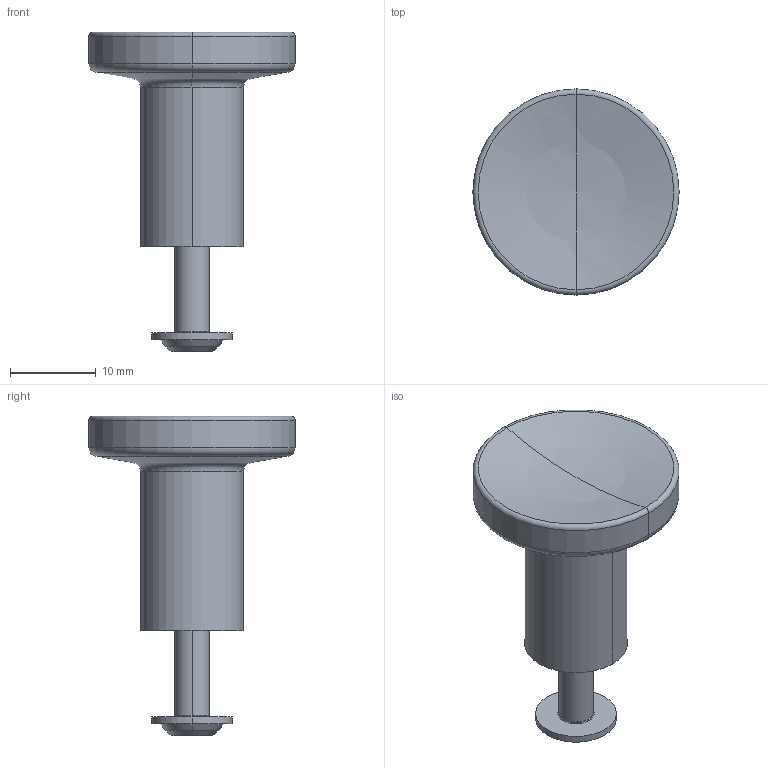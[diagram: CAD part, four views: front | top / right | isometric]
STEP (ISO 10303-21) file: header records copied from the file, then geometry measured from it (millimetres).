
FILE_DESCRIPTION((''),'2;1');
FILE_NAME('48739--00_SUB01_ASM','2024-10-25T10:43:45',('clra1'),(''),'CREO PARAMETRIC BY PTC INC, 2022244','CREO PARAMETRIC BY PTC INC, 2022244','');
FILE_SCHEMA(('CONFIG_CONTROL_DESIGN'));
Length unit declared in the file: millimetre
Products named in the file (3): 46753--; 4674900; 48739--00_SUB01_ASM
Assembly tree (2 placements, depth 2):
  48739--00_SUB01_ASM
    46753--
    4674900
Bounding box: 24 x 24 x 37.2 mm (x, y, z)
Volume: 4449.7 mm3; surface area: 2623.1 mm2
Topology: 2 solids, 2 shells, 59 faces, 143 edges, 86 vertices
Faces by surface type: cylinder 22, cone 16, torus 10, plane 5, bspline 4, sphere 2
Entity records: 2143 total; most frequent: CARTESIAN_POINT 756, DIRECTION 278, ORIENTED_EDGE 274, EDGE_CURVE 137, AXIS2_PLACEMENT_3D 123, VERTEX_POINT 86, EDGE_LOOP 63, CIRCLE 63
